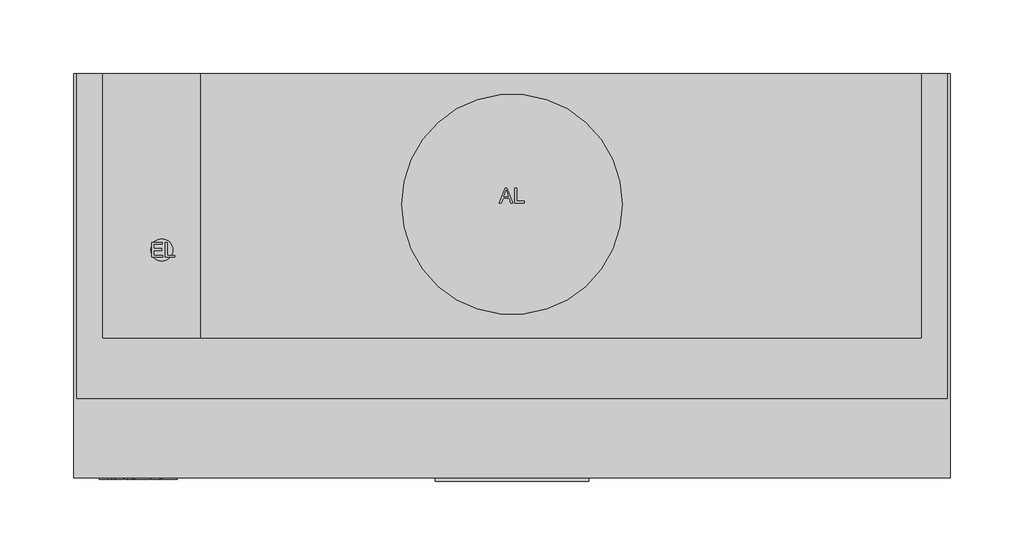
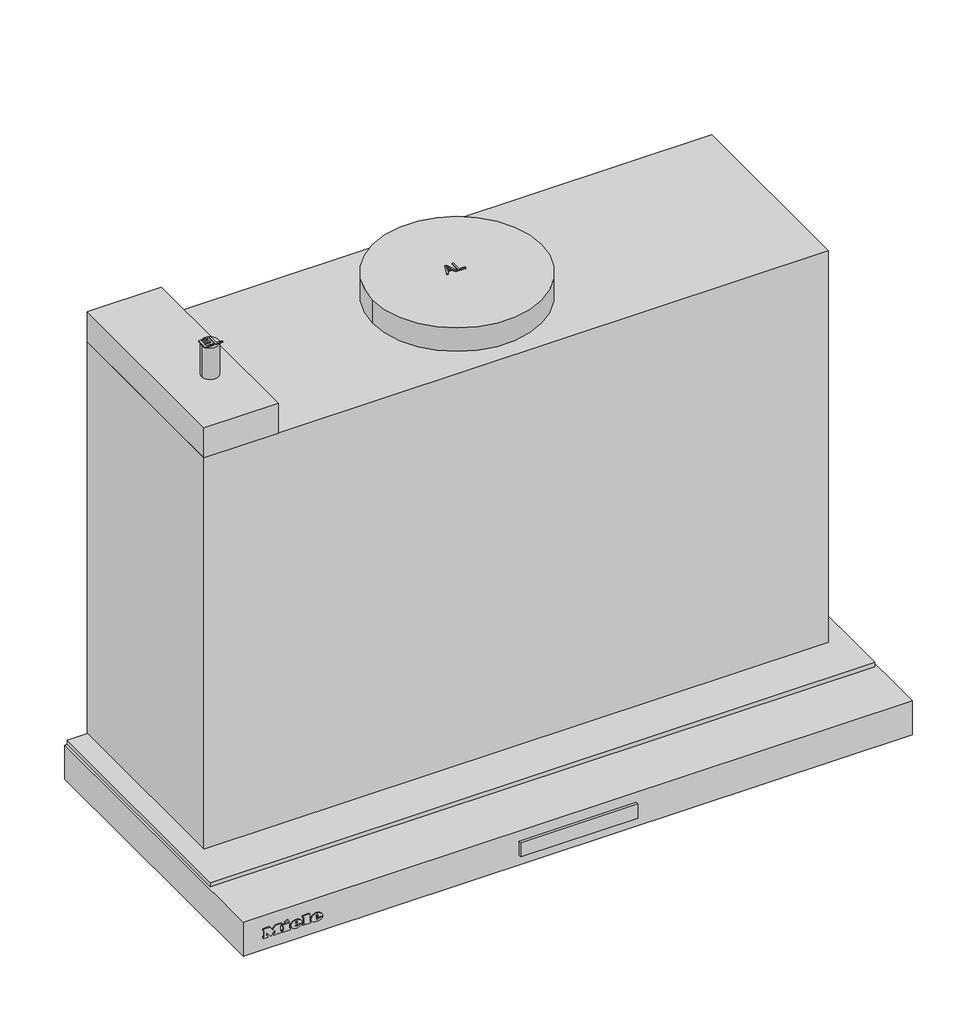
# Not in any storey: 1 proxy.
"""IFC4 building model written with IfcOpenShell, lengths in millimetres."""

from ifc_helpers import new_model, si_unit, origin, place, context, project, spatial, transform, mapped, element, save
from components import specialty_equipment_f6f74302

model = new_model("IFC4")

# Units and contexts
model_context = context("Model", 3, world=origin())
ifc_project = project(units=[si_unit("LENGTHUNIT", "METRE", prefix="MILLI")], contexts=[model_context])

# Site, building
site = spatial("IfcSite", under=ifc_project)
building = spatial("IfcBuilding", under=site)

# Proxy
placement = place(None, origin())
specialty_equipment_shape = specialty_equipment_f6f74302(model_context)
element("IfcBuildingElementProxy", 1, Name="12400940_D_DAS2622_EDST : 28S2622S_D_12400940_DAS2622_EDST", ObjectType="12400940_D_DAS2622_EDST : 28S2622S_D_12400940_DAS2622_EDST", at=placement, inside=building, context=model_context, shape_type="MappedRepresentation", body=[
    mapped(specialty_equipment_shape, transform((0.0, 0.0, 0.0), x_axis=(1.0, 0.0, 0.0), y_axis=(0.0, 1.0, 0.0), z_axis=(0.0, 0.0, 1.0))),
])

save(model, "model.ifc")
